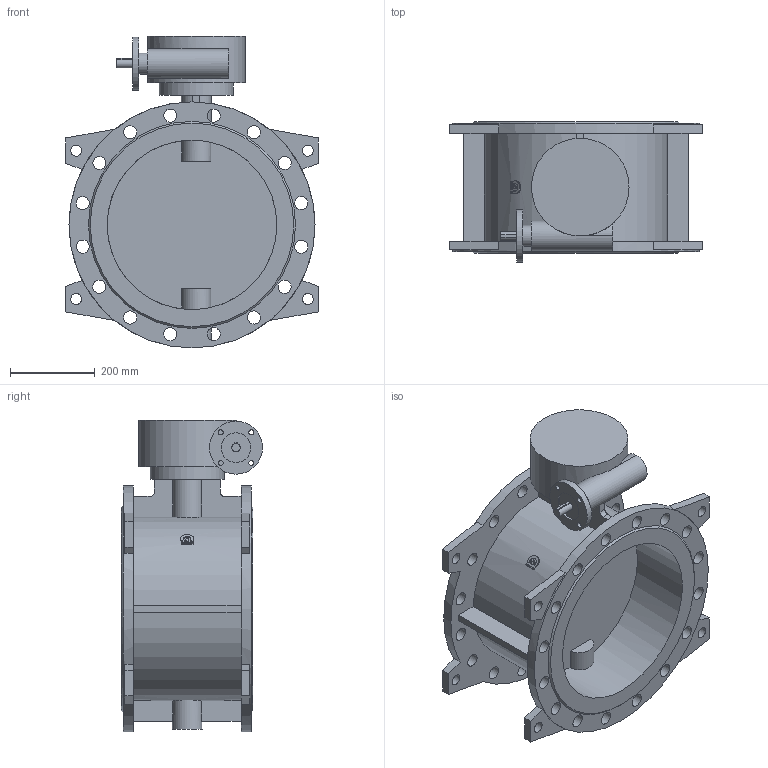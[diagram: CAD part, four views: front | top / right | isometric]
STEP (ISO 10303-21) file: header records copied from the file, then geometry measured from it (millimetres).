
FILE_DESCRIPTION(('STEP AP203'), '1');
FILE_NAME('Çàòâîð 023F.Z DN400 PN16_ð-ð_ôë', '', ('UNSPECIFIED'), ('UNSPECIFIED'), 'ASCON STEP Converter 1.6', 'ASCON Math Kernel', '');
FILE_SCHEMA(('CONFIG_CONTROL_DESIGN'));
Length unit declared in the file: millimetre
Bounding box: 596 x 332.5 x 735 mm (x, y, z)
Volume: 25167921.3 mm3; surface area: 2031016.7 mm2
Topology: 1 solids, 1 shells, 179 faces, 460 edges, 306 vertices
Faces by surface type: plane 95, cylinder 82, cone 2
Full cylindrical faces by diameter (mm): 12 x4, 14 x4, 18 x4, 20 x1, 26 x8, 31 x32, 50 x1, 70 x3, 125 x1, 175 x1, 230 x1, 400 x2, 580 x2
Entity records: 7810 total; most frequent: CARTESIAN_POINT 1955, DIRECTION 909, ORIENTED_EDGE 780, EDGE_CURVE 390, AXIS2_PLACEMENT_3D 359, EDGE_LOOP 357, VERTEX_POINT 305, FACE_BOUND 230
